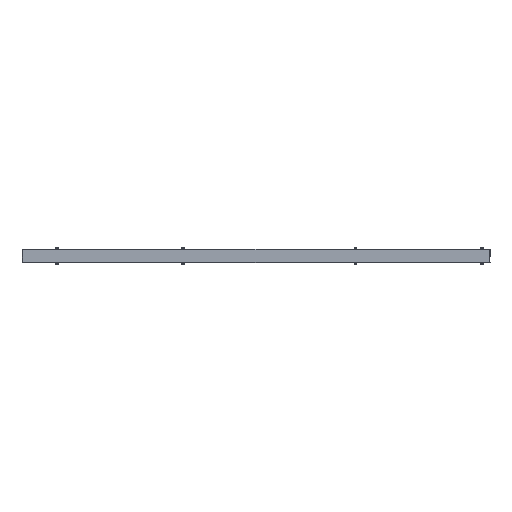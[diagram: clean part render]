
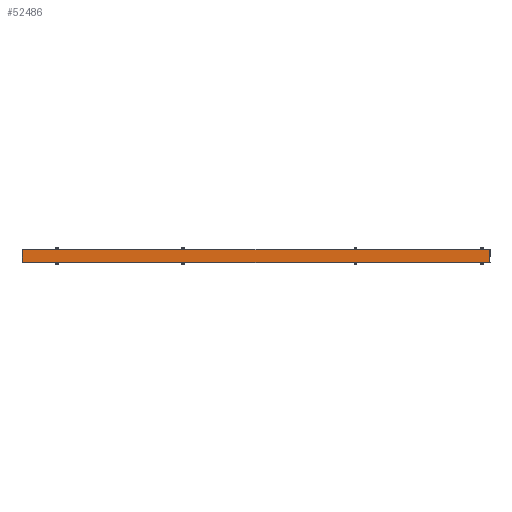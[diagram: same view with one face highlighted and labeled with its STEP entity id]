
A CAD part, left-side view. The second image highlights one B-rep face of the part: STEP entity #52486.
In plain terms, the highlighted planar face has unit normal (-1, 0, 0) as drawn and (0, -1, 0) by its records, which use the part's own axes.
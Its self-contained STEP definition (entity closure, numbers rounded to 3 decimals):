
#49666=CARTESIAN_POINT(' ',(-23.4,0.,-876.9));
#49667=VERTEX_POINT(' ',#49666);
#49866=CARTESIAN_POINT(' ',(-23.4,0.,876.9));
#49871=DIRECTION(' ',(0.,0.,-1.));
#49876=VECTOR(' ',#49871,1.);
#49881=LINE('',#49866,#49876);
#49886=CARTESIAN_POINT(' ',(-23.4,0.,876.9));
#49887=VERTEX_POINT(' ',#49886);
#49891=EDGE_CURVE(' ',#49887,#49667,#49881,.T.);
#52346=DIRECTION(' ',(0.,-1.,0.));
#52351=CARTESIAN_POINT(' ',(-23.4,0.,876.9));
#52356=DIRECTION(' ',(0.,-0.,-1.));
#52361=AXIS2_PLACEMENT_3D(' ',#52351,#52346,#52356);
#52366=PLANE('NONE',#52361);
#52371=ORIENTED_EDGE(' ',*,*,#49891,.T.);
#52376=CARTESIAN_POINT(' ',(-23.4,0.,-876.9));
#52381=DIRECTION(' ',(1.,0.,0.));
#52386=VECTOR(' ',#52381,1.);
#52391=LINE('',#52376,#52386);
#52396=CARTESIAN_POINT(' ',(23.4,0.,-876.9));
#52397=VERTEX_POINT(' ',#52396);
#52401=EDGE_CURVE(' ',#49667,#52397,#52391,.T.);
#52406=ORIENTED_EDGE(' ',*,*,#52401,.T.);
#52411=CARTESIAN_POINT(' ',(23.4,0.,876.9));
#52416=DIRECTION(' ',(0.,0.,-1.));
#52421=VECTOR(' ',#52416,1.);
#52426=LINE('',#52411,#52421);
#52431=CARTESIAN_POINT(' ',(23.4,0.,876.9));
#52432=VERTEX_POINT(' ',#52431);
#52436=EDGE_CURVE(' ',#52432,#52397,#52426,.T.);
#52441=ORIENTED_EDGE(' ',*,*,#52436,.F.);
#52446=CARTESIAN_POINT(' ',(23.4,0.,876.9));
#52451=DIRECTION(' ',(-1.,0.,0.));
#52456=VECTOR(' ',#52451,1.);
#52461=LINE('',#52446,#52456);
#52466=EDGE_CURVE(' ',#52432,#49887,#52461,.T.);
#52471=ORIENTED_EDGE(' ',*,*,#52466,.T.);
#52476=EDGE_LOOP(' ',(#52371,#52406,#52441,#52471));
#52481=FACE_OUTER_BOUND(' ',#52476,.T.);
#52486=ADVANCED_FACE('NONE',(#52481),#52366,.T.);
